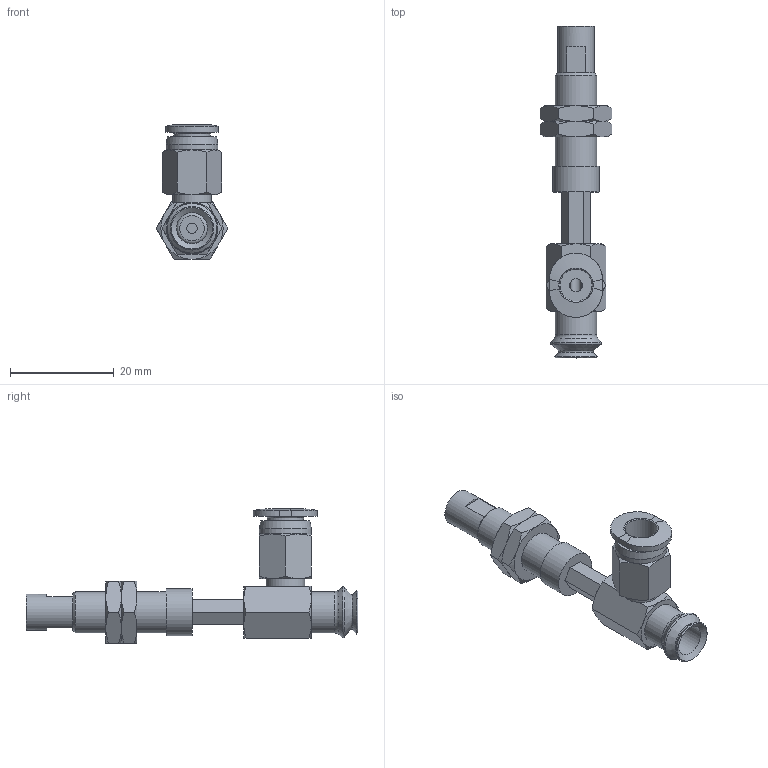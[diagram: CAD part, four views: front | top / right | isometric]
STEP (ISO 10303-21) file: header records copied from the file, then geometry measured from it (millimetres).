
FILE_DESCRIPTION(('STEP AP203'),'1');
FILE_NAME('-O.stp','2025-04-24T05:56:50',(' '),(' '),'Spatial InterOp 3D',' ',' ');
FILE_SCHEMA(('CONFIG_CONTROL_DESIGN'));
Length unit declared in the file: millimetre
Products named in the file (7): BNABPJYH-8-10-※-O; CONNECTOR_H-8-10; NAPJH-8-10-NUT; NAPJTH-8-10-FBODY; NAPJTH-8-10-MBODY; BPJG-8-※; PC-C_06-M5
Assembly tree (7 placements, depth 2):
  BNABPJYH-8-10-※-O
    CONNECTOR_H-8-10
    NAPJH-8-10-NUT  x2
    NAPJTH-8-10-FBODY
    NAPJTH-8-10-MBODY
    BPJG-8-※
    PC-C_06-M5
Bounding box: 13.86 x 64 x 25.98 mm (x, y, z)
Volume: 3454 mm3; surface area: 5343.9 mm2
Topology: 6 solids, 9 shells, 187 faces, 398 edges, 241 vertices
Faces by surface type: plane 78, cone 68, cylinder 23, torus 11, bspline 4, revolution 3
Full cylindrical faces by diameter (mm): 2 x1, 4 x4, 4.134 x2, 5 x2, 6 x2, 7 x2, 7.188 x2, 7.4 x1, 8 x2, 8.2 x1, 9 x1, 10 x1
Entity records: 4896 total; most frequent: CARTESIAN_POINT 1365, DIRECTION 653, ORIENTED_EDGE 580, EDGE_CURVE 292, AXIS2_PLACEMENT_3D 278, EDGE_LOOP 238, VERTEX_POINT 204, FACE_OUTER_BOUND 135
